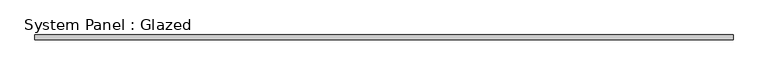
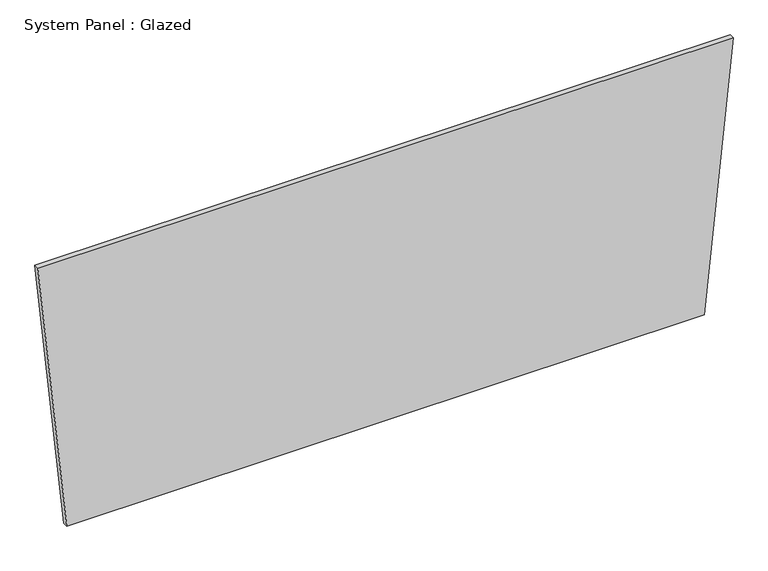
"""IFC4 building model written with IfcOpenShell, lengths in millimetres: plate geometry, System Panel : Glazed."""

from ifc_helpers import new_model, si_unit, frame, origin, place, context, project, spatial, polyline, outline, extrude, source, transform, mapped, element, save


def system_panel_glazed_5c68d9ee(model_context):
    return source(origin(), model_context, "Body", "SweptSolid", [
        extrude(outline(polyline([(0.0, -1636.3178536), (0.0, 1636.3178536), (1452.5741974, 1785.0420349), (1452.5741974, -1785.0420349), (0.0, -1636.3178536)])), frame((0.0, -44.45, 0.0), z_axis=(0.0, 1.0, 0.0), x_axis=(0.0, 0.0, 1.0)), (0.0, 0.0, 1.0), 25.4),
    ])


if __name__ == "__main__":
    model = new_model("IFC4")
    model_context = context("Model", 3, world=origin())
    ifc_project = project(units=[si_unit("LENGTHUNIT", "METRE", prefix="MILLI")], contexts=[model_context])
    site = spatial("IfcSite", under=ifc_project)
    building = spatial("IfcBuilding", under=site)
    placement = place(None, origin())
    system_panel_glazed_shape = system_panel_glazed_5c68d9ee(model_context)
    element("IfcPlate", 1, ObjectType="System Panel : Glazed", at=placement, inside=building, context=model_context, shape_type="MappedRepresentation", body=[
        mapped(system_panel_glazed_shape, transform((0.0, 0.0, 0.0), x_axis=(1.0, 0.0, 0.0), y_axis=(0.0, 1.0, 0.0), z_axis=(0.0, 0.0, 1.0))),
    ])
    save(model, "model.ifc")
